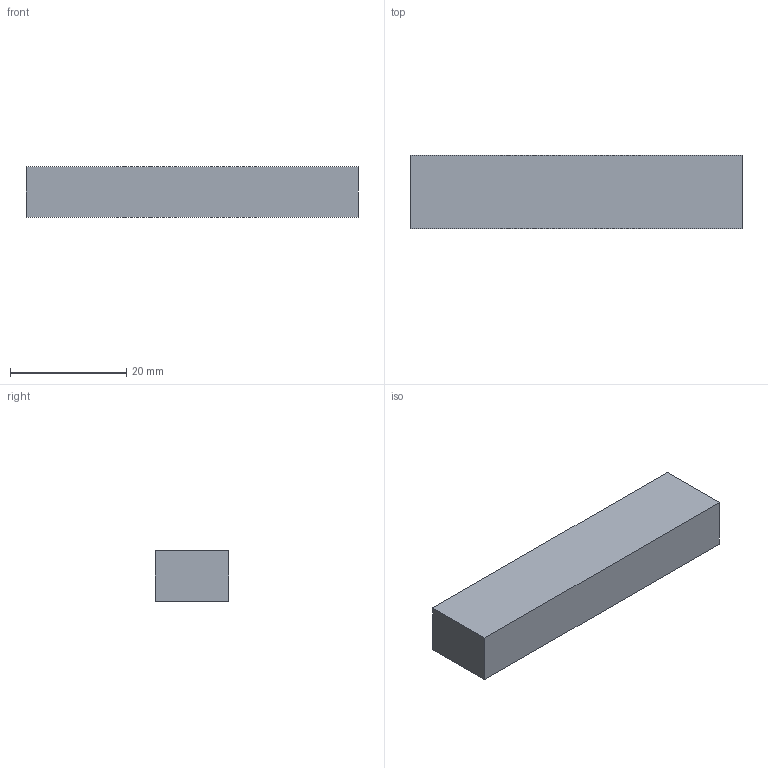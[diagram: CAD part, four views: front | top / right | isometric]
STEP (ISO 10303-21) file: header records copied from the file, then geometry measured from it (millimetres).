
FILE_DESCRIPTION (( 'STEP AP214' ), '1' );
FILE_NAME ('Valve_rail.STEP', '2015-04-16T23:52:31', ( '' ), ( '' ), 'SwSTEP 2.0', 'SolidWorks 2012', '' );
FILE_SCHEMA (( 'AUTOMOTIVE_DESIGN' ));
Length unit declared in the file: inch
Products named in the file (1): Valve_rail
Bounding box: 57.15 x 12.7 x 8.76 mm (x, y, z)
Volume: 6360.2 mm3; surface area: 2675.8 mm2
Topology: 1 solids, 1 shells, 6 faces, 12 edges, 8 vertices
Faces by surface type: plane 6
Entity records: 196 total; most frequent: CARTESIAN_POINT 27, DIRECTION 26, ORIENTED_EDGE 24, LINE 12, VECTOR 12, EDGE_CURVE 12, VERTEX_POINT 8, AXIS2_PLACEMENT_3D 7
